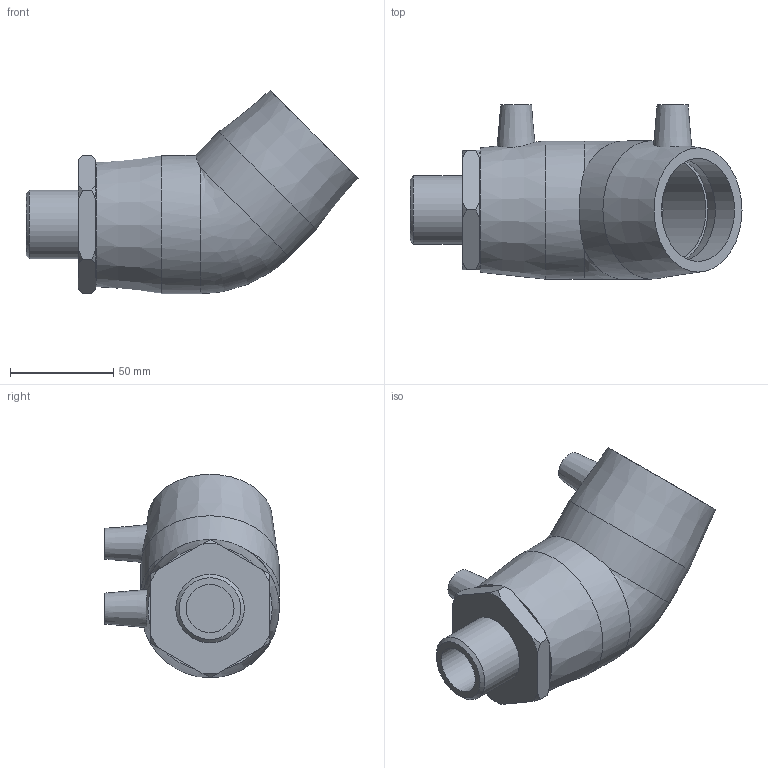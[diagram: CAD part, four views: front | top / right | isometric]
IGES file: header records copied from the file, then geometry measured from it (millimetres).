
Global section: file name: 492604050010.ipt; native system: Autodesk Inventor 2015; preprocessor: unknown; author: KIM; date: 20200202.122424; units: millimetre
Bounding box: 161 x 84.5 x 98.59 mm (x, y, z)
Volume: 292133.7 mm3; surface area: 60591.9 mm2
Topology: 1 solids, 2 shells, 59 faces, 142 edges, 97 vertices
Faces by surface type: plane 24, cone 17, revolution 10, cylinder 7, bspline 1
Full cylindrical faces by diameter (mm): 4 x2, 33.249 x1, 50 x2, 67 x2
